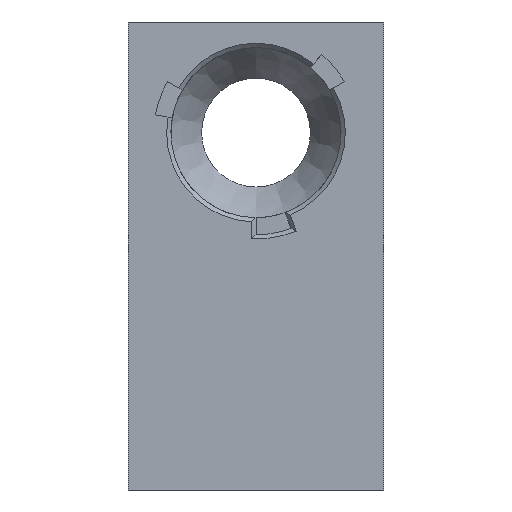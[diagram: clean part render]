
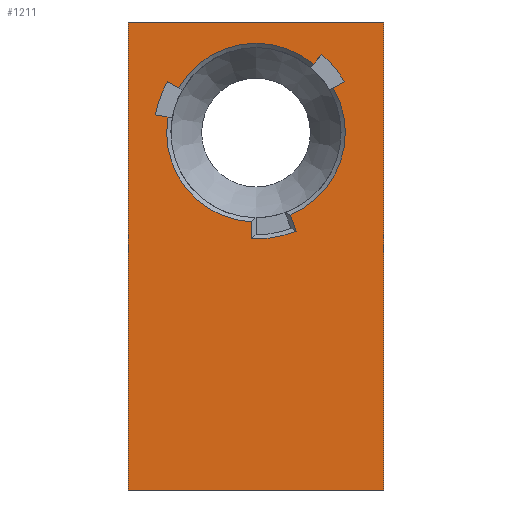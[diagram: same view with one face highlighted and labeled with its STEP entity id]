
A CAD part, front view. The second image highlights one B-rep face of the part: STEP entity #1211.
In plain terms, the highlighted planar face has unit normal (0, -1, 0).
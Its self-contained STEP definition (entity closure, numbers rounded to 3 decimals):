
#31=FACE_BOUND('',#173,.T.);
#49=PLANE('',#1321);
#106=FACE_OUTER_BOUND('',#172,.T.);
#172=EDGE_LOOP('',(#1020,#1021,#1022,#1023));
#173=EDGE_LOOP('',(#1024,#1025,#1026,#1027,#1028,#1029,#1030,#1031,#1032,
#1033,#1034,#1035));
#304=CIRCLE('',#1310,12.);
#307=CIRCLE('',#1319,12.);
#308=CIRCLE('',#1322,10.5);
#309=CIRCLE('',#1323,12.5);
#310=CIRCLE('',#1324,10.5);
#311=CIRCLE('',#1325,10.5);
#341=LINE('',#2457,#413);
#350=LINE('',#2495,#422);
#352=LINE('',#2572,#424);
#358=LINE('',#2586,#430);
#364=LINE('',#2650,#436);
#365=LINE('',#2652,#437);
#366=LINE('',#2654,#438);
#367=LINE('',#2655,#439);
#368=LINE('',#2659,#440);
#369=LINE('',#2663,#441);
#413=VECTOR('',#1484,10.);
#422=VECTOR('',#1507,10.);
#424=VECTOR('',#1511,10.);
#430=VECTOR('',#1523,10.);
#436=VECTOR('',#1537,10.);
#437=VECTOR('',#1538,10.);
#438=VECTOR('',#1539,10.);
#439=VECTOR('',#1540,10.);
#440=VECTOR('',#1543,10.);
#441=VECTOR('',#1546,10.);
#539=VERTEX_POINT('',#2455);
#540=VERTEX_POINT('',#2456);
#544=VERTEX_POINT('',#2469);
#548=VERTEX_POINT('',#2494);
#549=VERTEX_POINT('',#2570);
#550=VERTEX_POINT('',#2571);
#554=VERTEX_POINT('',#2584);
#555=VERTEX_POINT('',#2585);
#558=VERTEX_POINT('',#2648);
#559=VERTEX_POINT('',#2649);
#560=VERTEX_POINT('',#2651);
#561=VERTEX_POINT('',#2653);
#562=VERTEX_POINT('',#2656);
#563=VERTEX_POINT('',#2658);
#564=VERTEX_POINT('',#2660);
#565=VERTEX_POINT('',#2662);
#691=EDGE_CURVE('',#539,#540,#341,.T.);
#698=EDGE_CURVE('',#544,#539,#304,.T.);
#706=EDGE_CURVE('',#548,#544,#350,.T.);
#709=EDGE_CURVE('',#549,#550,#352,.T.);
#716=EDGE_CURVE('',#554,#555,#358,.T.);
#721=EDGE_CURVE('',#555,#549,#307,.T.);
#725=EDGE_CURVE('',#558,#559,#364,.T.);
#726=EDGE_CURVE('',#559,#560,#365,.T.);
#727=EDGE_CURVE('',#561,#560,#366,.T.);
#728=EDGE_CURVE('',#558,#561,#367,.T.);
#729=EDGE_CURVE('',#562,#540,#308,.T.);
#730=EDGE_CURVE('',#563,#562,#368,.T.);
#731=EDGE_CURVE('',#564,#563,#309,.T.);
#732=EDGE_CURVE('',#565,#564,#369,.T.);
#733=EDGE_CURVE('',#554,#565,#310,.T.);
#734=EDGE_CURVE('',#548,#550,#311,.T.);
#1020=ORIENTED_EDGE('',*,*,#725,.T.);
#1021=ORIENTED_EDGE('',*,*,#726,.T.);
#1022=ORIENTED_EDGE('',*,*,#727,.F.);
#1023=ORIENTED_EDGE('',*,*,#728,.F.);
#1024=ORIENTED_EDGE('',*,*,#706,.T.);
#1025=ORIENTED_EDGE('',*,*,#698,.T.);
#1026=ORIENTED_EDGE('',*,*,#691,.T.);
#1027=ORIENTED_EDGE('',*,*,#729,.F.);
#1028=ORIENTED_EDGE('',*,*,#730,.F.);
#1029=ORIENTED_EDGE('',*,*,#731,.F.);
#1030=ORIENTED_EDGE('',*,*,#732,.F.);
#1031=ORIENTED_EDGE('',*,*,#733,.F.);
#1032=ORIENTED_EDGE('',*,*,#716,.T.);
#1033=ORIENTED_EDGE('',*,*,#721,.T.);
#1034=ORIENTED_EDGE('',*,*,#709,.T.);
#1035=ORIENTED_EDGE('',*,*,#734,.F.);
#1211=ADVANCED_FACE('',(#106,#31),#49,.T.);
#1310=AXIS2_PLACEMENT_3D('',#2470,#1496,#1497);
#1319=AXIS2_PLACEMENT_3D('',#2617,#1529,#1530);
#1321=AXIS2_PLACEMENT_3D('',#2647,#1535,#1536);
#1322=AXIS2_PLACEMENT_3D('',#2657,#1541,#1542);
#1323=AXIS2_PLACEMENT_3D('',#2661,#1544,#1545);
#1324=AXIS2_PLACEMENT_3D('',#2664,#1547,#1548);
#1325=AXIS2_PLACEMENT_3D('',#2665,#1549,#1550);
#1484=DIRECTION('',(-0.866,0.,-0.5));
#1496=DIRECTION('center_axis',(0.,1.,0.));
#1497=DIRECTION('ref_axis',(0.866,0.,0.5));
#1507=DIRECTION('',(0.643,0.,0.766));
#1511=DIRECTION('',(0.866,0.,-0.5));
#1523=DIRECTION('',(-0.985,0.,0.174));
#1529=DIRECTION('center_axis',(0.,1.,0.));
#1530=DIRECTION('ref_axis',(-0.866,0.,0.5));
#1535=DIRECTION('center_axis',(0.,-1.,0.));
#1536=DIRECTION('ref_axis',(1.,0.,0.));
#1537=DIRECTION('',(1.,0.,0.));
#1538=DIRECTION('',(0.,0.,1.));
#1539=DIRECTION('',(1.,0.,0.));
#1540=DIRECTION('',(0.,0.,1.));
#1541=DIRECTION('center_axis',(0.,-1.,0.));
#1542=DIRECTION('ref_axis',(-1.,0.,0.));
#1543=DIRECTION('',(-0.342,0.,0.94));
#1544=DIRECTION('center_axis',(0.,-1.,0.));
#1545=DIRECTION('ref_axis',(0.,0.,-1.));
#1546=DIRECTION('',(0.,0.,-1.));
#1547=DIRECTION('center_axis',(0.,-1.,0.));
#1548=DIRECTION('ref_axis',(-1.,0.,0.));
#1549=DIRECTION('center_axis',(0.,-1.,0.));
#1550=DIRECTION('ref_axis',(-1.,0.,0.));
#2455=CARTESIAN_POINT('',(10.392,26.051,48.));
#2456=CARTESIAN_POINT('',(9.093,26.051,47.25));
#2457=CARTESIAN_POINT('',(-9.955,26.051,36.252));
#2469=CARTESIAN_POINT('',(7.713,26.051,51.193));
#2470=CARTESIAN_POINT('Origin',(0.,26.051,
42.));
#2494=CARTESIAN_POINT('',(6.749,26.051,50.043));
#2495=CARTESIAN_POINT('',(-9.904,26.051,30.197));
#2570=CARTESIAN_POINT('',(-10.392,26.051,48.));
#2571=CARTESIAN_POINT('',(-9.093,26.051,47.25));
#2572=CARTESIAN_POINT('',(-1.295,26.051,42.748));
#2584=CARTESIAN_POINT('',(-10.34,26.051,43.823));
#2585=CARTESIAN_POINT('',(-11.818,26.051,44.084));
#2586=CARTESIAN_POINT('',(-9.099,26.051,43.604));
#2617=CARTESIAN_POINT('Origin',(0.,26.051,
42.));
#2647=CARTESIAN_POINT('Origin',(-15.,26.051,0.));
#2648=CARTESIAN_POINT('',(-15.,26.051,0.));
#2649=CARTESIAN_POINT('',(15.,26.051,0.));
#2650=CARTESIAN_POINT('',(-15.,26.051,0.));
#2651=CARTESIAN_POINT('',(15.,26.051,55.));
#2652=CARTESIAN_POINT('',(15.,26.051,0.));
#2653=CARTESIAN_POINT('',(-15.,26.051,55.));
#2654=CARTESIAN_POINT('',(-15.,26.051,55.));
#2655=CARTESIAN_POINT('',(-15.,26.051,0.));
#2656=CARTESIAN_POINT('',(4.057,26.051,32.315));
#2657=CARTESIAN_POINT('Origin',(0.,26.051,
42.));
#2658=CARTESIAN_POINT('',(4.742,26.051,30.434));
#2659=CARTESIAN_POINT('',(8.223,26.051,20.87));
#2660=CARTESIAN_POINT('',(-0.5,26.051,29.51));
#2661=CARTESIAN_POINT('Origin',(0.,26.051,
42.));
#2662=CARTESIAN_POINT('',(-0.5,26.051,31.512));
#2663=CARTESIAN_POINT('',(-0.5,26.051,15.5));
#2664=CARTESIAN_POINT('Origin',(0.,26.051,
42.));
#2665=CARTESIAN_POINT('Origin',(0.,26.051,
42.));
